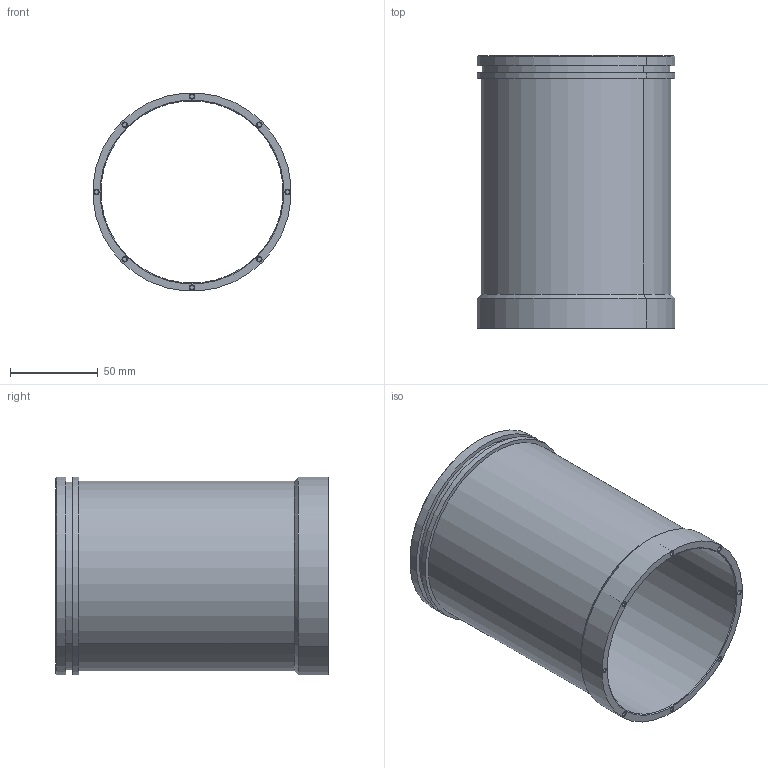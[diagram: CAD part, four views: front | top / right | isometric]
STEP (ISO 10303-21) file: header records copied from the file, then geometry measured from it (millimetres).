
FILE_DESCRIPTION(/* description */ ('VariCAD 2010-3.03 AP-214'),/* implementation_level */ '2;1');
FILE_NAME(/* name */ '0353-10-17A',/* time_stamp */ '2011-01-19T15:19:06-07:00',/* author */ (''),/* organization */ (''),/* preprocessor_version */ 'ST-DEVELOPER v12',/* originating_system */ 'VariCAD 2010-3.03; kernel version (20100102)',/* authorisation */ '');
FILE_SCHEMA (('AUTOMOTIVE_DESIGN'));
Length unit declared in the file: millimetre
Products named in the file (1): Part
Bounding box: 112.37 x 155 x 112.37 mm (x, y, z)
Volume: 139333.2 mm3; surface area: 112366.8 mm2
Topology: 17 solids, 17 shells, 233 faces, 466 edges, 286 vertices
Faces by surface type: cylinder 142, plane 53, cone 38
Entity records: 7997 total; most frequent: DIRECTION 1254, CARTESIAN_POINT 1003, ORIENTED_EDGE 932, AXIS2_PLACEMENT_3D 537, EDGE_CURVE 466, EDGE_LOOP 286, CIRCLE 286, VERTEX_POINT 286
